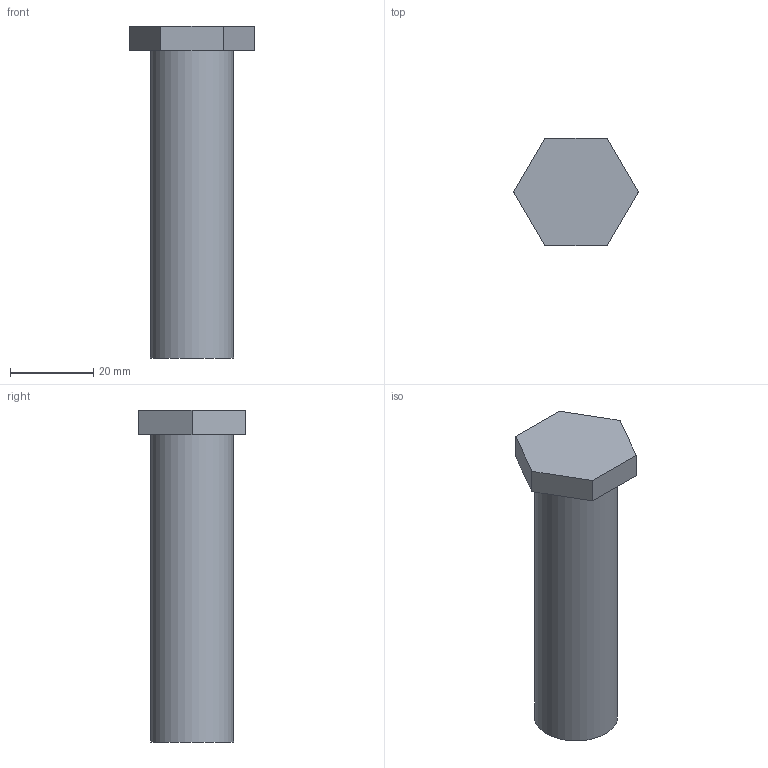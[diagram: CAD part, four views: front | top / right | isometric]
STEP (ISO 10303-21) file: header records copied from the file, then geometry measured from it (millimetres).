
FILE_DESCRIPTION(('Open CASCADE Model'),'2;1');
FILE_NAME('Open CASCADE Shape Model','2026-10-21T17:23:49',('Author'),( 'Open CASCADE'),'Open CASCADE STEP processor 7.9','Open CASCADE 7.9' ,'Unknown');
FILE_SCHEMA(('AUTOMOTIVE_DESIGN { 1 0 10303 214 1 1 1 1 }'));
Length unit declared in the file: millimetre
Products named in the file (1): Open CASCADE STEP translator 7.9 19
Bounding box: 30 x 25.98 x 80 mm (x, y, z)
Volume: 26755.2 mm3; surface area: 6358.7 mm2
Topology: 1 solids, 1 shells, 10 faces, 21 edges, 14 vertices
Faces by surface type: plane 9, cylinder 1
Full cylindrical faces by diameter (mm): 20 x1
Entity records: 550 total; most frequent: CARTESIAN_POINT 88, DIRECTION 87, LINE 59, VECTOR 59, ORIENTED_EDGE 42, PCURVE 42, DEFINITIONAL_REPRESENTATION 42, EDGE_CURVE 21
